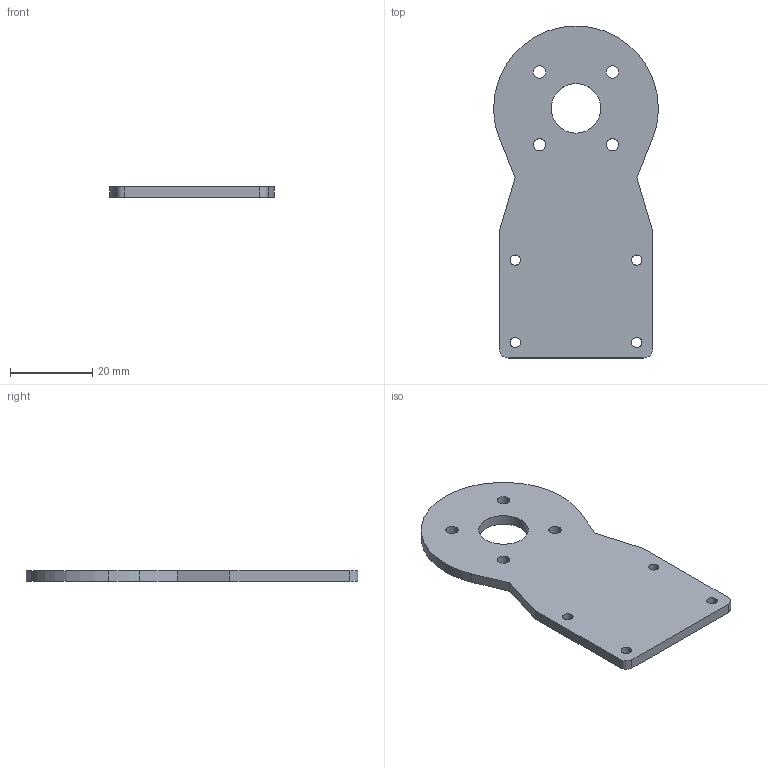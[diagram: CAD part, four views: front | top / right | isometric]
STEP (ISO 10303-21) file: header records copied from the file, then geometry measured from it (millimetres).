
FILE_DESCRIPTION (( 'STEP AP203' ), '1' );
FILE_NAME ('Gimbal Motor (roll) Plate v2.STEP', '2016-10-20T20:50:21', ( 'drhyoo' ), ( '' ), 'SwSTEP 2.0', 'SolidWorks 2016', '' );
FILE_SCHEMA (( 'CONFIG_CONTROL_DESIGN' ));
Length unit declared in the file: millimetre
Products named in the file (1): Gimbal Motor (roll) Plate v2
Bounding box: 40 x 80.59 x 2.5 mm (x, y, z)
Volume: 6601.2 mm3; surface area: 6103.6 mm2
Topology: 1 solids, 1 shells, 32 faces, 90 edges, 60 vertices
Faces by surface type: cylinder 23, plane 9
Entity records: 1173 total; most frequent: DIRECTION 202, CARTESIAN_POINT 183, ORIENTED_EDGE 180, EDGE_CURVE 90, AXIS2_PLACEMENT_3D 79, VERTEX_POINT 60, EDGE_LOOP 50, CIRCLE 46
